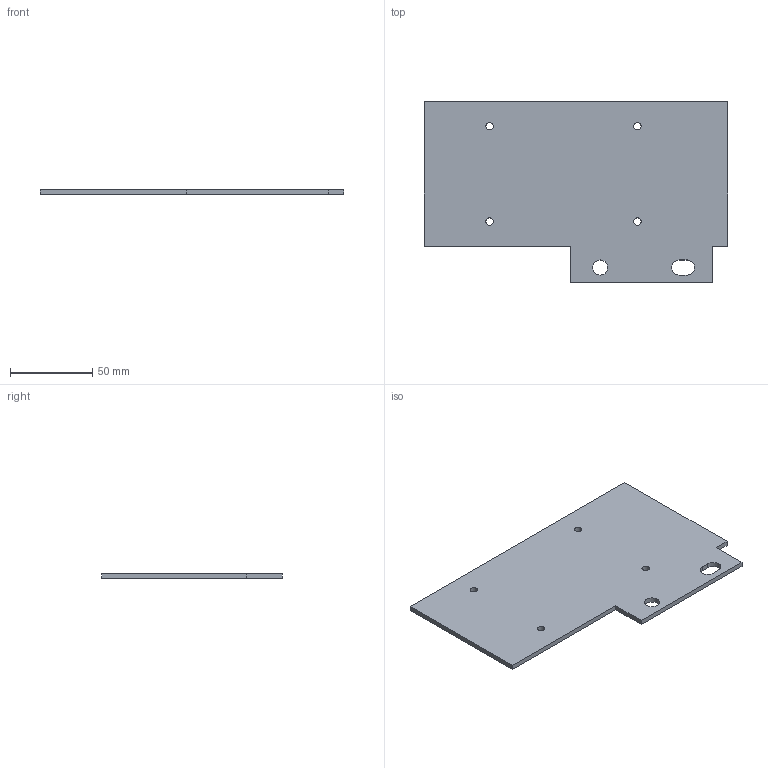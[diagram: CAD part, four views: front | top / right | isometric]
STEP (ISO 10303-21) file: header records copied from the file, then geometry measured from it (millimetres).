
FILE_DESCRIPTION(('FreeCAD Model'),'2;1');
FILE_NAME('Open CASCADE Shape Model','2026-09-11T23:31:28',('FreeCAD'),( 'FreeCAD'),'Open CASCADE STEP processor 7.8','FreeCAD','Unknown');
FILE_SCHEMA(('AUTOMOTIVE_DESIGN { 1 0 10303 214 1 1 1 1 }'));
Length unit declared in the file: millimetre
Products named in the file (1): Open CASCADE STEP translator 7.8 9
Bounding box: 185 x 110 x 3 mm (x, y, z)
Volume: 53840 mm3; surface area: 38035.2 mm2
Topology: 1 solids, 1 shells, 19 faces, 51 edges, 34 vertices
Faces by surface type: plane 12, cylinder 7
Full cylindrical faces by diameter (mm): 4.5 x4, 9.2 x1
Entity records: 633 total; most frequent: CARTESIAN_POINT 105, DIRECTION 105, ORIENTED_EDGE 102, EDGE_CURVE 51, LINE 37, VECTOR 37, AXIS2_PLACEMENT_3D 34, VERTEX_POINT 34
